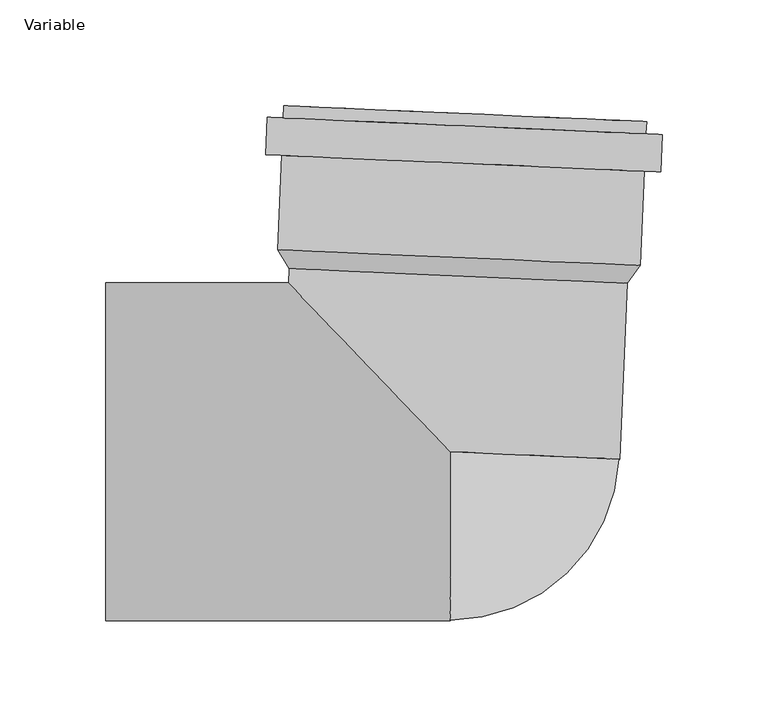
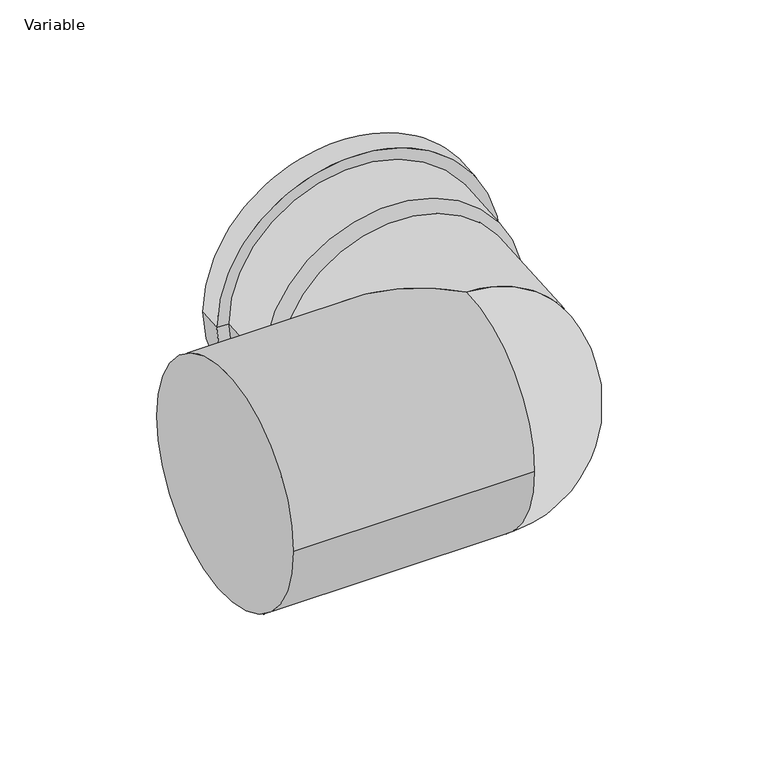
"""IFC4 building model written with IfcOpenShell, lengths in millimetres: pipe fitting geometry, AliaxisFR_Friaphon_ElbowMF_FR : Variable."""

from ifc_helpers import new_model, si_unit, point, frame, origin, place, context, project, spatial, polyline, circle_curve, ellipse_curve, trimmed, source, transform, mapped, element, save
from ifc_brep_helpers import plane_surface, cylinder_surface, revolved_surface, advanced_brep


def variable_6ddee202(model_context):
    return source(origin(), model_context, "Body", "AdvancedBrep", [
        advanced_brep(
        [(92.6974394, 156.105172, 0.0), (-78.7392354, 163.5902589, 0.0), (-72.9447557, 163.3372664, 0.0), (86.9029597, 156.3581645, 0.0), (99.3650551, 132.2916695, 0.0), (-87.4569623, 140.448495, 0.0), (-86.6848992, 158.1316485, 0.0), (100.1371182, 149.974823, 0.0), (91.6723838, 132.6275388, 0.0), (-79.764291, 140.1126257, 0.0), (89.7269591, 88.0699881, 0.0), (-81.7097157, 95.555075, 0.0), (-76.2947247, 86.610363, 0.0), (83.5529908, 79.631261, 0.0), (92.4444469, 150.3106923, 0.0), (-78.9922279, 157.7957792, 0.0)],
        [
            (0, 1, circle_curve(frame((6.979102, 159.8477155, 0.0), z_axis=(0.0436193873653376, 0.9990482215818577, 0.0), x_axis=(-0.9990482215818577, 0.0436193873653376, 0.0)), 85.8)),
            (1, 2),
            (2, 3, circle_curve(frame((6.979102, 159.8477155, 0.0), z_axis=(-0.0436193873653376, -0.9990482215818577, 0.0), x_axis=(-0.9990482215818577, 0.0436193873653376, 0.0)), 80.0)),
            (3, 0),
            (1, 0, circle_curve(frame((6.979102, 159.8477155, 0.0), z_axis=(0.0436193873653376, 0.9990482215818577, 0.0), x_axis=(-0.9990482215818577, 0.0436193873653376, 0.0)), 85.8)),
            (3, 2, circle_curve(frame((6.979102, 159.8477155, 0.0), z_axis=(-0.0436193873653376, -0.9990482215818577, 0.0), x_axis=(-0.9990482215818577, 0.0436193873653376, 0.0)), 80.0)),
            (4, 5, circle_curve(frame((5.9540464, 136.3700822, 0.0), z_axis=(0.0436193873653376, 0.9990482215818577, 0.0), x_axis=(-0.9990482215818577, 0.0436193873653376, 0.0)), 93.5)),
            (5, 6),
            (6, 7, circle_curve(frame((6.7261095, 154.0532358, 0.0), z_axis=(-0.0436193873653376, -0.9990482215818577, 0.0), x_axis=(-0.9990482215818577, 0.0436193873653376, 0.0)), 93.5)),
            (7, 4),
            (5, 4, circle_curve(frame((5.9540464, 136.3700822, 0.0), z_axis=(0.0436193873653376, 0.9990482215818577, 0.0), x_axis=(-0.9990482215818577, 0.0436193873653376, 0.0)), 93.5)),
            (7, 6, circle_curve(frame((6.7261095, 154.0532358, 0.0), z_axis=(-0.0436193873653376, -0.9990482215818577, 0.0), x_axis=(-0.9990482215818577, 0.0436193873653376, 0.0)), 93.5)),
            (8, 9, circle_curve(frame((5.9540464, 136.3700822, 0.0), z_axis=(0.0436193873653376, 0.9990482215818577, 0.0), x_axis=(-0.9990482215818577, 0.0436193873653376, 0.0)), 85.8)),
            (9, 5),
            (4, 8),
            (9, 8, circle_curve(frame((5.9540464, 136.3700822, 0.0), z_axis=(0.0436193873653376, 0.9990482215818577, 0.0), x_axis=(-0.9990482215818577, 0.0436193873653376, 0.0)), 85.8)),
            (10, 11, circle_curve(frame((4.0086217, 91.8125316, 0.0), z_axis=(0.0436193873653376, 0.9990482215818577, 0.0), x_axis=(-0.9990482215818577, 0.0436193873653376, 0.0)), 85.8)),
            (11, 9),
            (8, 10),
            (11, 10, circle_curve(frame((4.0086217, 91.8125316, 0.0), z_axis=(0.0436193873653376, 0.9990482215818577, 0.0), x_axis=(-0.9990482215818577, 0.0436193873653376, 0.0)), 85.8)),
            (2, 12),
            (12, 13, circle_curve(frame((3.629133, 83.120812, 0.0), z_axis=(-0.0436193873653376, -0.9990482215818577, 0.0), x_axis=(-0.9990482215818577, 0.0436193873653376, 0.0)), 80.0)),
            (13, 3),
            (13, 12, circle_curve(frame((3.629133, 83.120812, 0.0), z_axis=(-0.0436193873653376, -0.9990482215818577, 0.0), x_axis=(-0.9990482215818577, 0.0436193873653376, 0.0)), 80.0)),
            (12, 11),
            (10, 13),
            (14, 15, circle_curve(frame((6.7261095, 154.0532358, 0.0), z_axis=(0.0436193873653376, 0.9990482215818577, 0.0), x_axis=(-0.9990482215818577, 0.0436193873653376, 0.0)), 85.8)),
            (15, 1),
            (0, 14),
            (15, 14, circle_curve(frame((6.7261095, 154.0532358, 0.0), z_axis=(0.0436193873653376, 0.9990482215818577, 0.0), x_axis=(-0.9990482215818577, 0.0436193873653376, 0.0)), 85.8)),
            (6, 15),
            (14, 7),
        ],
        [
            plane_surface(frame((6.979102, 159.8477155, 0.0), z_axis=(0.0436193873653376, 0.9990482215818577, 0.0), x_axis=(-0.9990482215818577, 0.0436193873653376, 0.0))),
            cylinder_surface(frame((3.629133, 83.120812, 0.0), z_axis=(-0.0436193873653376, -0.9990482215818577, 0.0), x_axis=(-0.9990482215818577, 0.0436193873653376, 0.0)), 93.5),
            plane_surface(frame((5.9540464, 136.3700822, 0.0), z_axis=(-0.0436193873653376, -0.9990482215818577, 0.0), x_axis=(-0.9990482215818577, 0.0436193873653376, 0.0))),
            cylinder_surface(frame((3.629133, 83.120812, 0.0), z_axis=(-0.0436193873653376, -0.9990482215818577, 0.0), x_axis=(-0.9990482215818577, 0.0436193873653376, 0.0)), 85.8),
            revolved_surface(polyline([(-76.29472472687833, 86.61036298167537, 0.0), (-72.94475577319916, 163.33726649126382, 0.0)]), (3.629133, 83.120812, 0.0), (-0.0436193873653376, -0.9990482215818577, 0.0)),
            revolved_surface(polyline([(-81.7097157, 95.555075, 0.0), (-76.2947247, 86.610363, 0.0)]), (3.629133, 83.120812, 0.0), (-0.0436193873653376, -0.9990482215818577, 0.0)),
            plane_surface(frame((6.7261095, 154.0532358, 0.0), z_axis=(0.0436193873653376, 0.9990482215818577, 0.0), x_axis=(-0.9990482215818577, 0.0436193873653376, 0.0))),
        ],
        [
            (0, [[1, 2, 3, 4]]),
            (0, [[5, -4, 6, -2]]),
            (1, [[7, 8, 9, 10]]),
            (1, [[11, -10, 12, -8]]),
            (2, [[13, 14, -7, 15]]),
            (2, [[16, -15, -11, -14]]),
            (3, [[17, 18, -13, 19]]),
            (3, [[20, -19, -16, -18]]),
            (4, [[-3, 21, 22, 23]]),
            (4, [[-6, -23, 24, -21]]),
            (5, [[-22, 25, -17, 26]]),
            (5, [[-24, -26, -20, -25]]),
            (3, [[27, 28, -1, 29]]),
            (3, [[30, -29, -5, -28]]),
            (6, [[-9, 31, -27, 32]]),
            (6, [[-12, -32, -30, -31]]),
        ],
    ),
        advanced_brep(
        [(-76.0417323, 92.4048427, 0.0), (3.8821255, 88.9152917, 80.0), (83.8059832, 85.4257407, 0.0), (3.8821255, 88.9152917, -80.0), (79.9238577, -3.489551, 0.0), (-76.5833394, 80.0, 0.0), (0.0, 0.0, 80.0), (0.0, 0.0, -80.0), (-163.0, -80.0, 0.0), (-163.0, 80.0, 0.0), (0.0, -80.0, 0.0)],
        [
            (0, 1, circle_curve(frame((3.8821255, 88.9152917, 0.0), z_axis=(0.0436193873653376, 0.9990482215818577, 0.0), x_axis=(-0.9990482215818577, 0.0436193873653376, 0.0)), 80.0)),
            (1, 2, circle_curve(frame((3.8821255, 88.9152917, 0.0), z_axis=(0.0436193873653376, 0.9990482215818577, 0.0), x_axis=(-0.9990482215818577, 0.0436193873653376, 0.0)), 80.0)),
            (2, 3, circle_curve(frame((3.8821255, 88.9152917, 0.0), z_axis=(0.0436193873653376, 0.9990482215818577, 0.0), x_axis=(-0.9990482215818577, 0.0436193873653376, 0.0)), 80.0)),
            (3, 0, circle_curve(frame((3.8821255, 88.9152917, 0.0), z_axis=(0.0436193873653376, 0.9990482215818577, 0.0), x_axis=(-0.9990482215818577, 0.0436193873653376, 0.0)), 80.0)),
            (4, 2),
            (0, 5),
            (5, 6, ellipse_curve(frame((0.0, 0.0, 0.0), z_axis=(0.7223639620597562, 0.6915130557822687, 0.0), x_axis=(0.6915130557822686, -0.7223639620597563, 0.0)), 110.747496, 80.0)),
            (6, 4, circle_curve(frame((0.0, 0.0, 0.0), z_axis=(0.0436193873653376, 0.9990482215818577, 0.0), x_axis=(-0.9990482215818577, 0.0436193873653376, 0.0)), 80.0)),
            (4, 7, circle_curve(frame((0.0, 0.0, 0.0), z_axis=(0.0436193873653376, 0.9990482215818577, 0.0), x_axis=(-0.9990482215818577, 0.0436193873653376, 0.0)), 80.0)),
            (7, 5, ellipse_curve(frame((0.0, 0.0, 0.0), z_axis=(0.7223639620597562, 0.6915130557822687, 0.0), x_axis=(0.6915130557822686, -0.7223639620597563, 0.0)), 110.747496, 80.0)),
            (8, 9, circle_curve(frame((-163.0, 0.0, 0.0), z_axis=(-1.0, 0.0, 0.0), x_axis=(0.0, 1.0, 0.0)), 80.0)),
            (9, 8, circle_curve(frame((-163.0, 0.0, 0.0), z_axis=(-1.0, 0.0, 0.0), x_axis=(0.0, 1.0, 0.0)), 80.0)),
            (8, 10),
            (10, 6, circle_curve(frame((0.0, 0.0, 0.0), z_axis=(-1.0, 0.0, 0.0), x_axis=(0.0, 1.0, 0.0)), 80.0)),
            (5, 9),
            (7, 10, circle_curve(frame((0.0, 0.0, 0.0), z_axis=(-1.0, 0.0, 0.0), x_axis=(0.0, 1.0, 0.0)), 80.0)),
        ],
        [
            plane_surface(frame((3.8821255, 88.9152917, 0.0), z_axis=(0.043619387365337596, 0.9990482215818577, 0.0), x_axis=(0.0, 0.0, 1.0))),
            cylinder_surface(frame((0.0, 0.0, 0.0), z_axis=(-0.0436193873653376, -0.9990482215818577, 0.0), x_axis=(-0.9990482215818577, 0.0436193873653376, 0.0)), 80.0),
            plane_surface(frame((-163.0, 0.0, 0.0), z_axis=(-1.0, 0.0, 0.0), x_axis=(0.0, 0.0, 1.0))),
            cylinder_surface(frame((-163.0, 0.0, 0.0), z_axis=(-1.0, 0.0, 0.0), x_axis=(0.0, 1.0, 0.0)), 80.0),
            revolved_surface(trimmed(ellipse_curve(frame((0.0, 0.0, 0.0), z_axis=(0.0436193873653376, 0.9990482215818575, 0.0), x_axis=(-0.9990482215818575, 0.0436193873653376, 0.0)), 80.0, 80.0), [point((0.0, 0.0, 80.0))], [point((0.0, 0.0, -80.0))], True, "CARTESIAN"), (0.0, 0.0, 80.0), (0.0, 0.0, -1.0)),
        ],
        [
            (0, [[1, 2, 3, 4]]),
            (1, [[5, -2, -1, 6, 7, 8]]),
            (1, [[-5, 9, 10, -6, -4, -3]]),
            (2, [[11, 12]]),
            (3, [[-11, 13, 14, -7, 15]]),
            (3, [[-12, -15, -10, 16, -13]]),
            (4, [[-14, -16, -9, -8]]),
        ],
    ),
    ])


if __name__ == "__main__":
    model = new_model("IFC4")
    model_context = context("Model", 3, world=origin())
    ifc_project = project(units=[si_unit("LENGTHUNIT", "METRE", prefix="MILLI")], contexts=[model_context])
    site = spatial("IfcSite", under=ifc_project)
    building = spatial("IfcBuilding", under=site)
    placement = place(None, origin())
    variable_shape = variable_6ddee202(model_context)
    element("IfcPipeFitting", 1, ObjectType="AliaxisFR_Friaphon_ElbowMF_FR : Variable", at=placement, inside=building, context=model_context, shape_type="MappedRepresentation", body=[
        mapped(variable_shape, transform((0.0, 0.0, 0.0), x_axis=(1.0, 0.0, 0.0), y_axis=(0.0, 1.0, 0.0), z_axis=(0.0, 0.0, 1.0))),
    ])
    save(model, "model.ifc")
